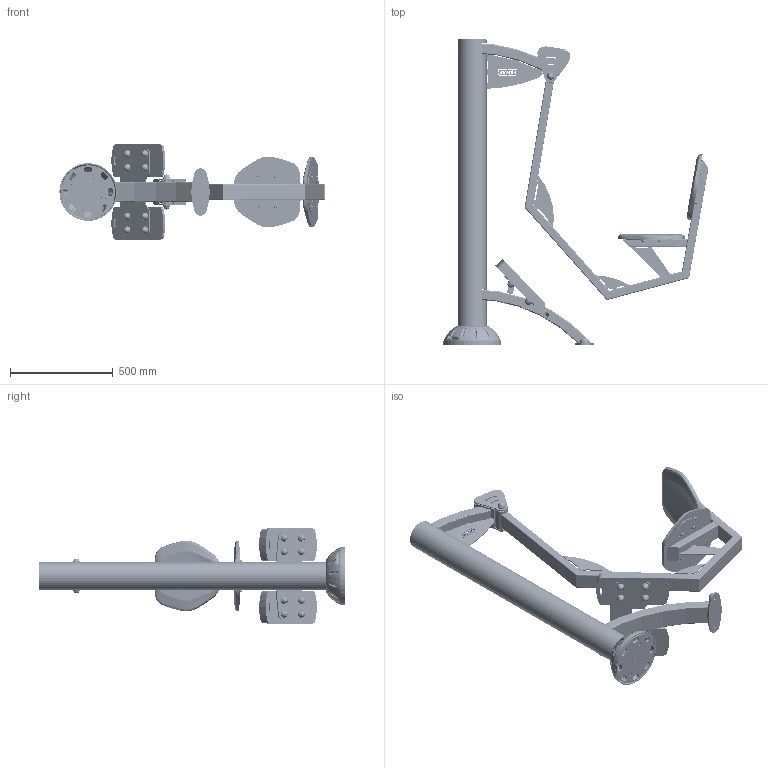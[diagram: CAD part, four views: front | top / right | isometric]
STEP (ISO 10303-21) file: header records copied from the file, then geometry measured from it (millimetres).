
FILE_DESCRIPTION (( 'STEP AP203' ), '1' );
FILE_NAME ('M0303-F - QUADRICEPS ASS V1.4.STEP', '2020-02-17T09:46:30', ( '' ), ( '' ), 'SwSTEP 2.0', 'SolidWorks 2019', '' );
FILE_SCHEMA (( 'CONFIG_CONTROL_DESIGN' ));
Length unit declared in the file: millimetre
Products named in the file (58): SBB2105.A - Support butee chape 110 V1.1; SA1409A - Axe Inox D.20mm L156,3mm V1.0; SBB2140 - BOITE A BUTEE AVEC DOUBLE ARRONDIS FERMES ASS V1.0_Chape 110; SUPPORT BUTEE CHAPE 110 ASS V4.3_Avec but‚e simple + but‚e double + cale 6 mm; TRESOSIE-M0303 - Tube sous siège Quadriceps V1.0; SBA1600 - Bague 6204 L107 V1.0; SBU1008 - Butee elastomere 60x55x20 V1.0; TOLPL-230-90.A - Platine 230x90 V1.0; SCH1808 - Chapeau 76x51 pour tube 80x40 coupe à 45°; SR0415 - Rondelle Grower M8 A2; SR0431 - Rondelle plastique pour roulement 6204 ép 5,3 V1.0; SBB2108 - Plaque latérale courte pour chape 110 ep.6 boite a butee V1.0__; SRR0816 - Roulement  6204 47-20-14; SR0416 - Rondelle plate petite M10 A2 ext 22mm; SRP0206 - REPOSE PIED ASS V4.0_Capuchon Ｑ 6; SCH1806.A - Chapeau D135 V1.2; SF1100 - Ecrou frein M8 A2; PU-TRETRAV655 - Tube rectangulaire cintré R750 100x50x3 L655 V1.0; SSD0718 - Demi plaque dossier béton pour tube 80x40 V1.1; PU-TOLPLAT - Platine base V1.0; TOLGOUDINFQUA - Tôle Gousset double inferieur quadriceps V1.0 .; SB0122 - Vis CHC M8x35 inox A2; SC0309 - Petit capuchon en nylon 44 mm; SBB2104 - Paroie support butee V4.1; SSD0720 - Dossier-siège V1.2; SSD0716 - Demi support siège béton pour tube 80x40 V1.1; M0303-F - QUADRICEPS ASS V1.4; ARTICULATION D60 CHAPE 110 V4.0_Avec rondelle SR0431; M0303-B - CHASSIS QUADRICEPS ASS V1.3; SSD0720 - SIEGE DOSSIER ASS V1.2_‚p.5 - Fixation dossier; SRP0206 - Repose pied V3.1; PU-TOLGOSIQUA - Gousset siège Quadriceps V2.0; SR0404 - Rondelle plate Moyenne M8 A2; TREPOSIE-M0303 - Tube potence siège Quadriceps V1.1; SB0101 - Vis CHC M8x40 inox A2; SBB2109 - Cale pour butee ep.6 V1.0; PU-TDRFIT281 - Tole renfort Fitpark L281 H170 V1.0; PU-TRETRAV327 - Tube rectangulaire cintré R750 100x50x3 L327; SBB2107 - Arrondi ferme boite a butee pour chape 110 V1.0; SB0112 - Vis Torx teton central M8x20_M8x20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
Assembly tree (139 placements, depth 4):
  M0303-F - QUADRICEPS ASS V1.4
    M0303-B - CHASSIS QUADRICEPS ASS V1.3
      PLATINE BASE ASS V2.0
        PU-TOLPLAT - Platine base V1.0
        PU-TOLGOPL - Gousset platine V2.0  x4
      PU-TROCB1468S - Colonne base haute D.139,7x3 Ht1468 Porteur ou Pousseur simple V1.0
      SCH1806.A - Chapeau D135 V1.2
      PU-TDRFIT281 - Tole renfort Fitpark L281 H170 V1.0
      TOLPL-230-90.A - Platine 230x90 V1.0
      PU-TRETRAV327 - Tube rectangulaire cintré R750 100x50x3 L327
      PU-TRETRAV655 - Tube rectangulaire cintré R750 100x50x3 L655 V1.0
      SBB2140 - BOITE A BUTEE AVEC DOUBLE ARRONDIS FERMES ASS V1.0_Chape 110
        SBB2102 - Plaque latérale pour chape 110 ep.6 boite a butee V1.2__
        SBB2101.B - Flasque boite a butee V1.4  x2
        SBB2108 - Plaque latérale courte pour chape 110 ep.6 boite a butee V1.0__  x2
        SBB2107 - Arrondi ferme boite a butee pour chape 110 V1.0  x2
      PU-TOLGORPQUA - gousset repose pied Quadriceps V1.1
      TOLAPQUA - Tole appui pieds Quadriceps V1.0
    SC0304 - CACHE PLATINE ASS V4.0
      SC0304 - Demi cache platine D140 V4.0
      SB0112 - Vis Torx teton central M8x20_M8x20  x2
    SSD0720 - SIEGE DOSSIER ASS V1.2_‚p.5 - Fixation dossier
      SSD0720 - Dossier-siège V1.2
      SR0404 - Rondelle plate Moyenne M8 A2  x4
      SB0112 - Vis Torx teton central M8x20_M8x20  x4
      SR0415 - Rondelle Grower M8 A2  x4
    SSD0720 - SIEGE DOSSIER ASS V1.2_‚p.5 - Fixation siŠge
      SSD0720 - Dossier-siège V1.2
      SR0404 - Rondelle plate Moyenne M8 A2  x4
      SB0112 - Vis Torx teton central M8x20_M8x20  x4
      SR0415 - Rondelle Grower M8 A2  x4
    POTSIEG-M0303 - POTENCE SIEGE QUADRICEPS ASS V1.5
      TREPOSIE-M0303 - Tube potence siège Quadriceps V1.1
      TRESOSIE-M0303 - Tube sous siège Quadriceps V1.0
      SSD0716 - Demi support siège béton pour tube 80x40 V1.1  x2
      SSD0718 - Demi plaque dossier béton pour tube 80x40 V1.1  x2
      SBA1600 - Bague 6204 L107 V1.0
      SUPPORT BUTEE CHAPE 110 ASS V4.3_Avec but‚e simple + but‚e double + cale 6 mm
        SBB2105.A - Support butee chape 110 V1.1
        SBB2104 - Paroie support butee V4.1  x2
        SBU1007 - Butee elastomere 60x38x20 V1.1_60x38x20
        SF1100 - Ecrou frein M8 A2  x2
        SBB2109 - Cale pour butee ep.6 V1.0
        SB0101 - Vis CHC M8x40 inox A2
        SBU1008 - Butee elastomere 60x55x20 V1.0
        SR0404 - Rondelle plate Moyenne M8 A2  x4
        SB0122 - Vis CHC M8x35 inox A2
      SCH1808 - Chapeau 76x51 pour tube 80x40 coupe à 45°  x2
      PU-TOLGOSIQUA - Gousset siège Quadriceps V2.0
      TOLGODOUPOQUA - Gousset double potence Quadriceps V1.0  x2
      TOLGOUDINFQUA - Tôle Gousset double inferieur quadriceps V1.0 .  x2
    SRP0206 - REPOSE PIED ASS V4.0_Capuchon Ｑ 6
      SRP0206 - Repose pied V3.1
      SR0404 - Rondelle plate Moyenne M8 A2  x4
      SC0306B - Base pour capuchon en nylon 36mm  x4
      SF1100 - Ecrou frein M8 A2  x4
      SC0306C - Petit capuchon en nylon 36 mm  x4
    ARTICULATION D60 CHAPE 110 V4.0_Avec rondelle SR0431
      SA1409A - Axe Inox D.20mm L156,3mm V1.0
      SC0306B - Base pour capuchon en nylon 36mm  x2
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Bounding box: 1289.94 x 1486 x 463.54 mm (x, y, z)
Volume: 14035302.9 mm3; surface area: 4929793.8 mm2
Topology: 137 solids, 153 shells, 4662 faces, 11532 edges, 7370 vertices
Faces by surface type: plane 1554, cylinder 1224, bspline 668, cone 632, torus 488, sphere 96
Entity records: 179338 total; most frequent: CARTESIAN_POINT 115481, ORIENTED_EDGE 11980, DIRECTION 11051, EDGE_CURVE 5990, AXIS2_PLACEMENT_3D 4303, VERTEX_POINT 3845, EDGE_LOOP 2671, LINE 2445
